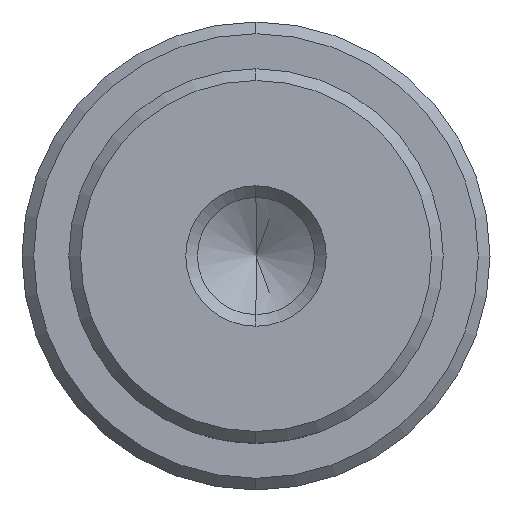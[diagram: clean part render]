
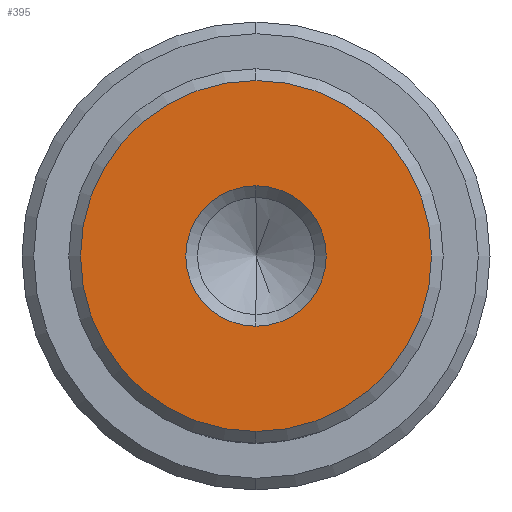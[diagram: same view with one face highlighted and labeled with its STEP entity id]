
A CAD part, left-side view. The second image highlights one B-rep face of the part: STEP entity #395.
In plain terms, the highlighted planar face has unit normal (-1, 0, 0).
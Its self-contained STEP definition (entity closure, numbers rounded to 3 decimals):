
#23 = CIRCLE ( 'NONE', #127, 7.5 ) ;
#36 = ORIENTED_EDGE ( 'NONE', *, *, #502, .T. ) ;
#73 = VERTEX_POINT ( 'NONE', #362 ) ;
#78 = VERTEX_POINT ( 'NONE', #718 ) ;
#103 = DIRECTION ( 'NONE',  ( 0., 0., 1. ) ) ;
#116 = CIRCLE ( 'NONE', #637, 7.5 ) ;
#125 = CARTESIAN_POINT ( 'NONE',  ( -70.9, 0., 0. ) ) ;
#127 = AXIS2_PLACEMENT_3D ( 'NONE', #125, #254, #530 ) ;
#144 = CIRCLE ( 'NONE', #220, 3. ) ;
#162 = CARTESIAN_POINT ( 'NONE',  ( -70.9, 0., 0. ) ) ;
#186 = EDGE_LOOP ( 'NONE', ( #36, #496 ) ) ;
#220 = AXIS2_PLACEMENT_3D ( 'NONE', #242, #471, #405 ) ;
#227 = ORIENTED_EDGE ( 'NONE', *, *, #640, .T. ) ;
#234 = DIRECTION ( 'NONE',  ( 0., 0., 1. ) ) ;
#242 = CARTESIAN_POINT ( 'NONE',  ( -70.9, 0., 0. ) ) ;
#254 = DIRECTION ( 'NONE',  ( -1., 0., 0. ) ) ;
#271 = EDGE_CURVE ( 'NONE', #73, #489, #116, .T. ) ;
#278 = PLANE ( 'NONE',  #734 ) ;
#304 = EDGE_CURVE ( 'NONE', #78, #551, #144, .T. ) ;
#345 = DIRECTION ( 'NONE',  ( -1., 0., 0. ) ) ;
#346 = CARTESIAN_POINT ( 'NONE',  ( -70.9, 0., 0. ) ) ;
#356 = ORIENTED_EDGE ( 'NONE', *, *, #271, .T. ) ;
#362 = CARTESIAN_POINT ( 'NONE',  ( -70.9, 0., 7.5 ) ) ;
#384 = AXIS2_PLACEMENT_3D ( 'NONE', #346, #498, #103 ) ;
#393 = FACE_OUTER_BOUND ( 'NONE', #613, .T. ) ;
#395 = ADVANCED_FACE ( 'NONE', ( #450, #393 ), #278, .T. ) ;
#405 = DIRECTION ( 'NONE',  ( 0., 0., 1. ) ) ;
#411 = CARTESIAN_POINT ( 'NONE',  ( -70.9, 0., 0. ) ) ;
#450 = FACE_BOUND ( 'NONE', #186, .T. ) ;
#471 = DIRECTION ( 'NONE',  ( 1., 0., 0. ) ) ;
#489 = VERTEX_POINT ( 'NONE', #678 ) ;
#496 = ORIENTED_EDGE ( 'NONE', *, *, #304, .T. ) ;
#498 = DIRECTION ( 'NONE',  ( 1., 0., 0. ) ) ;
#502 = EDGE_CURVE ( 'NONE', #551, #78, #695, .T. ) ;
#530 = DIRECTION ( 'NONE',  ( 0., 0., 1. ) ) ;
#551 = VERTEX_POINT ( 'NONE', #728 ) ;
#613 = EDGE_LOOP ( 'NONE', ( #227, #356 ) ) ;
#618 = DIRECTION ( 'NONE',  ( -1., 0., 0. ) ) ;
#637 = AXIS2_PLACEMENT_3D ( 'NONE', #411, #345, #234 ) ;
#640 = EDGE_CURVE ( 'NONE', #489, #73, #23, .T. ) ;
#678 = CARTESIAN_POINT ( 'NONE',  ( -70.9, 0., -7.5 ) ) ;
#681 = DIRECTION ( 'NONE',  ( 0., 0., 1. ) ) ;
#695 = CIRCLE ( 'NONE', #384, 3. ) ;
#718 = CARTESIAN_POINT ( 'NONE',  ( -70.9, 0., -3. ) ) ;
#728 = CARTESIAN_POINT ( 'NONE',  ( -70.9, 0., 3. ) ) ;
#734 = AXIS2_PLACEMENT_3D ( 'NONE', #162, #618, #681 ) ;
